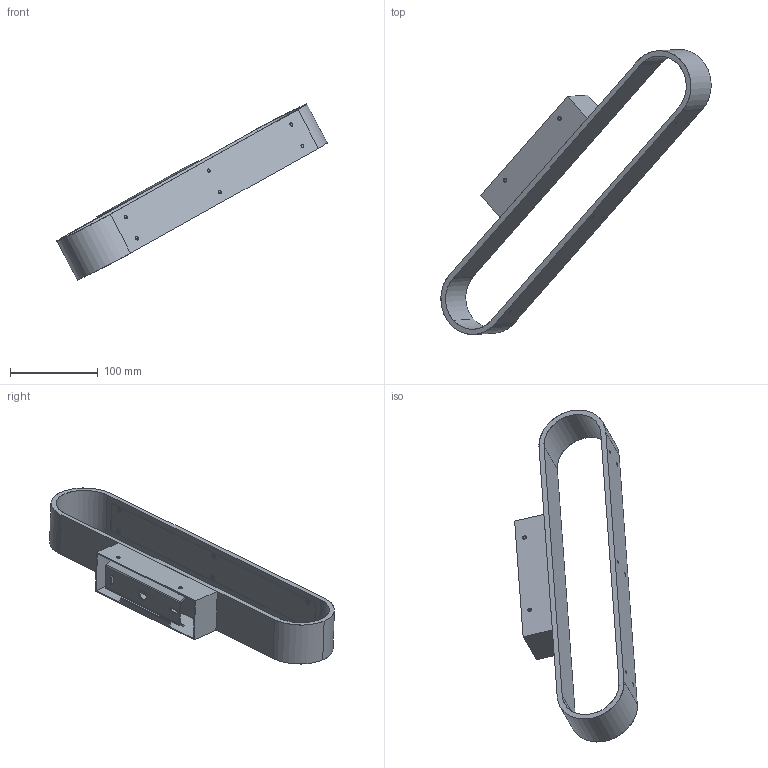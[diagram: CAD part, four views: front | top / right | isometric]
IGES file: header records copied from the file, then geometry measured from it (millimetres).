
Start section: SolidWorks IGES file using analytic representation for surfaces
Global section: file name: \\srvficheros\grupos\DISENYO\DESARROLLO DE PRODUCTO\_3D_WEB\GALA-A3189073\GALA-A3189073.IGS; native system: SolidWorks 2025; preprocessor: SolidWorks 2025; author: d.pons; date: 260114.073806; units: millimetre
Bounding box: 307.82 x 324.6 x 200.52 mm (x, y, z)
Surface area: 215867.9 mm2 (no closed solid volume)
Topology: 0 solids, 0 shells, 557 faces, 9708 edges, 9702 vertices
Faces by surface type: revolution 338, bspline 219
